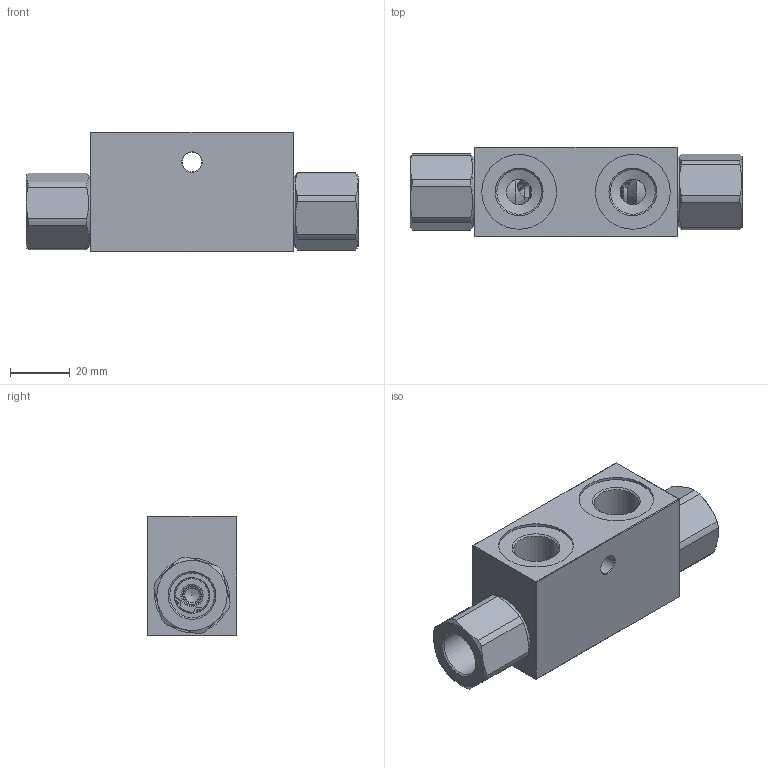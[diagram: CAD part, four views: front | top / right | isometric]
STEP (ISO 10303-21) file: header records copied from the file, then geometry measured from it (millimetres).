
FILE_DESCRIPTION(/* description */ ('Unknown'),/* implementation_level */ '2;1');
FILE_NAME(/* name */ 'AI316VBSE-DE38',/* time_stamp */ '2024-12-04T07:15:41+01:00',/* author */ ('Unknown'),/* organization */ ('Unknown'),/* preprocessor_version */ 'ST-DEVELOPER v19.4',/* originating_system */ 'Solid Edge',/* authorisation */ 'Unknown');
FILE_SCHEMA (('AUTOMOTIVE_DESIGN {1 0 10303 214 3 1 1}'));
Length unit declared in the file: millimetre
Products named in the file (1): AI316VBSE-DE38
Bounding box: 110.89 x 29.97 x 39.96 mm (x, y, z)
Volume: 82598.3 mm3; surface area: 24709.6 mm2
Topology: 3 solids, 3 shells, 250 faces, 661 edges, 421 vertices
Faces by surface type: plane 102, cylinder 91, cone 53, bspline 2, torus 2
Full cylindrical faces by diameter (mm): 2.997 x8, 4.076 x2, 4.995 x2, 6.494 x1, 6.993 x2, 7.492 x2, 7.992 x2, 8.492 x4, 8.991 x2, 10.989 x6, 11.738 x2, 11.988 x4, 12.488 x2, 14.935 x8, 14.985 x2, 16.36 x2, 23.477 x2, 24.975 x4
Entity records: 14746 total; most frequent: CARTESIAN_POINT 7636, DIRECTION 1156, ORIENTED_EDGE 954, AXIS2_PLACEMENT_3D 516, EDGE_CURVE 477, FACE_BOUND 401, EDGE_LOOP 399, VERTEX_POINT 350
